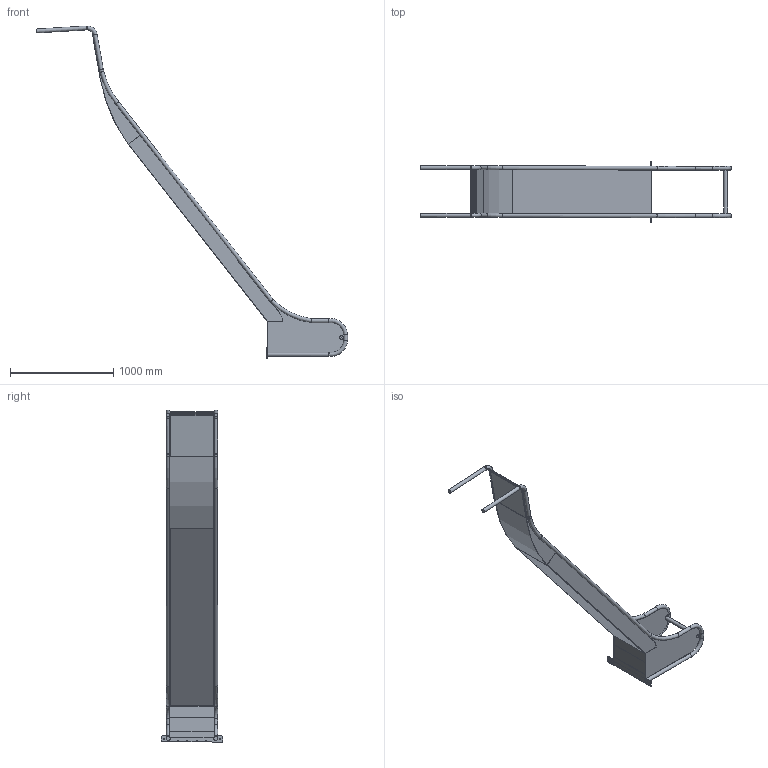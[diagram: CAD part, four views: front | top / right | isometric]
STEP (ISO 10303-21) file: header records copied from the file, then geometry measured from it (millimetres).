
FILE_DESCRIPTION(/* description */ (''),/* implementation_level */ '2;1');
FILE_NAME(/* name */ 'F:\_Inventor\- Tegningsmateriale - kunder\PlayNsafe\PlayNsafe Rutchebaner\120-1900-500 (B500 H1750-2000 med ører)\120-1900-500.stp',/* time_stamp */ '2026-09-08T11:18:15+02:00',/* author */ ('jm'),/* organization */ (''),/* preprocessor_version */ 'ST-DEVELOPER v18.1',/* originating_system */ 'Autodesk Inventor 2022',/* authorisation */ '');
FILE_SCHEMA (('AUTOMOTIVE_DESIGN { 1 0 10303 214 3 1 1 }'));
Length unit declared in the file: millimetre
Products named in the file (11): 120-1900-500; 100-1900-500 indløb; playnsafe udløb; Lb2200 venstre; bund model til step; udløb til LB2200 model til step; forlængerplade til lang siddeområde; monterings plade til model med høje øre; playnsafe høje ører; lang siddeområde rør; 120-1900-500 rør
Assembly tree (13 placements, depth 3):
  120-1900-500
    100-1900-500 indløb
    playnsafe udløb
      Lb2200 venstre  x2
      bund model til step
      udløb til LB2200 model til step
    forlængerplade til lang siddeområde
    monterings plade til model med høje øre
    playnsafe høje ører  x2
    lang siddeområde rør
    120-1900-500 rør  x2
Bounding box: 3008.77 x 595 x 3210.33 mm (x, y, z)
Volume: 18433264.7 mm3; surface area: 7250984.5 mm2
Topology: 12 solids, 12 shells, 281 faces, 661 edges, 407 vertices
Faces by surface type: plane 165, cylinder 92, bspline 10, torus 10, cone 4
Full cylindrical faces by diameter (mm): 2 x2, 6.5 x4, 34 x1, 38 x21
Entity records: 8596 total; most frequent: CARTESIAN_POINT 2776, DIRECTION 1176, ORIENTED_EDGE 1094, EDGE_CURVE 547, AXIS2_PLACEMENT_3D 403, LINE 370, VECTOR 370, VERTEX_POINT 331
